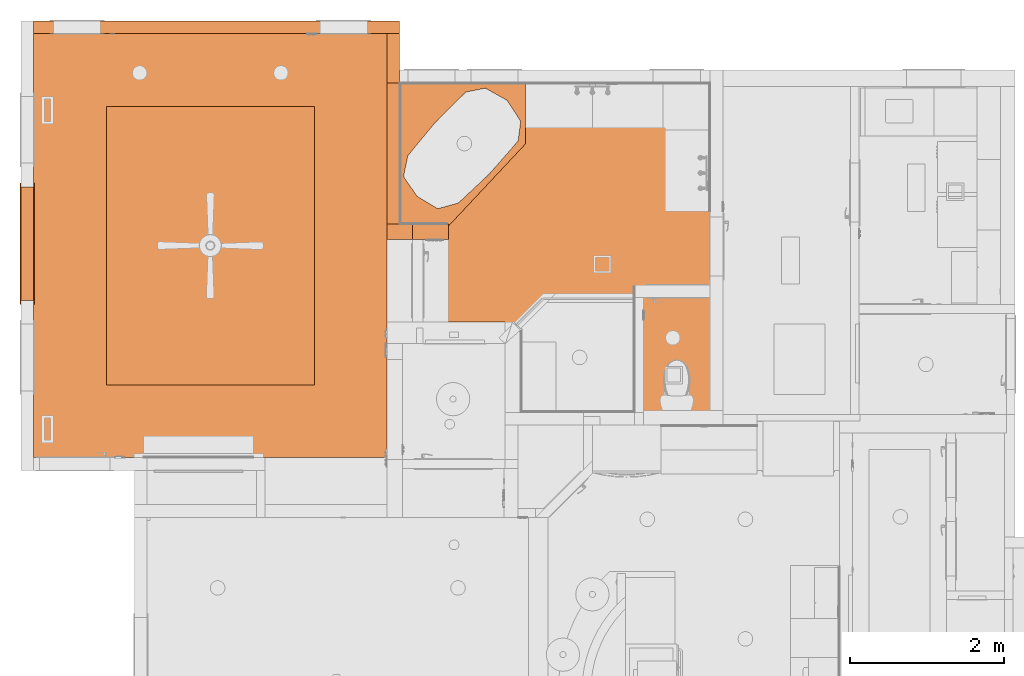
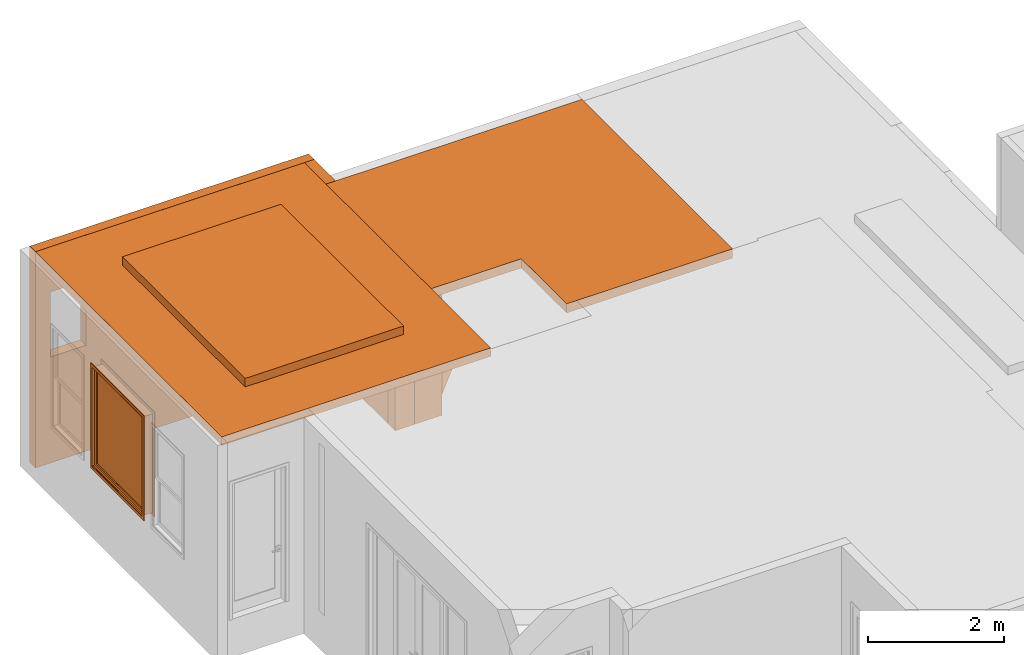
# One storey, part 90 of 103: 9 proxies.
"""IFC2X3 building model written with IfcOpenShell, lengths in inches."""

from ifc_helpers import new_model, entity, si_unit, converted_unit, derived_unit, money_unit, direction, frame, origin_with_axes, place, context, subcontext, project, spatial, faceted_brep, material, type_object, element, save


model = new_model("IFC2X3")

# Units and contexts
model_context = context("Model", 3, precision=0.00039370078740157, world=origin_with_axes(), true_north=direction((0.0, 1.0)))
plan_context = context("Plan", 3, precision=0.00039370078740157, world=origin_with_axes(), true_north=direction((0.0, 1.0)))
body_context = subcontext(model_context, "Body", "Model", "MODEL_VIEW")
ifc_project = project(units=[converted_unit("LENGTHUNIT", "INCH", entity("IfcPositiveLengthMeasure", 0.0254), si_unit("LENGTHUNIT", "METRE"), dimensions=[1, 0, 0, 0, 0, 0, 0]), converted_unit("AREAUNIT", "SQUARE_FOOT", entity("IfcPositiveLengthMeasure", 0.09290304), si_unit("AREAUNIT", "SQUARE_METRE"), dimensions=[2, 0, 0, 0, 0, 0, 0]), si_unit("PLANEANGLEUNIT", "RADIAN"), si_unit("SOLIDANGLEUNIT", "STERADIAN"), money_unit("USD"), converted_unit("TIMEUNIT", "Year", entity("IfcTimeMeasure", 31557600.0), si_unit("TIMEUNIT", "SECOND"), dimensions=[0, 0, 1, 0, 0, 0, 0]), si_unit("MASSUNIT", "GRAM", prefix="KILO"), si_unit("THERMODYNAMICTEMPERATUREUNIT", "DEGREE_CELSIUS"), si_unit("LUMINOUSINTENSITYUNIT", "LUMEN"), si_unit("ENERGYUNIT", "JOULE", prefix="MEGA"), derived_unit("SPECIFICHEATCAPACITYUNIT", [(si_unit("ENERGYUNIT", "JOULE"), 1), (si_unit("MASSUNIT", "GRAM", prefix="KILO"), -1), (si_unit("THERMODYNAMICTEMPERATUREUNIT", "KELVIN"), -1)])], contexts=[model_context, plan_context])

# Site, building, storey
site_placement = place(None, origin_with_axes())
site = spatial("IfcSite", under=ifc_project, at=site_placement, Name="Site", CompositionType="ELEMENT")
building_placement = place(site_placement, origin_with_axes())
building = spatial("IfcBuilding", under=site, at=building_placement, Name="Building", CompositionType="ELEMENT")
storey_placement = place(building_placement, frame((0.0, 0.0, 127.9999999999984), z_axis=(0.0, 0.0, 1.0), x_axis=(1.0, 0.0, 0.0)))
storey = spatial("IfcBuildingStorey", under=building, at=storey_placement, Name="Second Floor", CompositionType="ELEMENT", Elevation=128.0)

# Proxies
ifc_material = material(Name="Generic - Structural")
building_element_proxy_type_1 = type_object("IfcBuildingElementProxyType", Name="Generic - Structural 6 1/2\"", PredefinedType="NOTDEFINED")
proxy_1_placement = place(storey_placement, frame((-75.75000146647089, 448.0000047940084, 119.4999999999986), z_axis=(0.0, 0.0, 1.0), x_axis=(1.0, 0.0, 0.0)))
element("IfcBuildingElementProxy", 1, at=proxy_1_placement, inside=storey, type_object=building_element_proxy_type_1, material=ifc_material, Name="SLA - 004", context=body_context, shape_type="Brep", body=[
    faceted_brep([(0.0, 0.0, 6.499999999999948), (0.0, 0.0, 0.0), (60.25000218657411, 0.0, 0.0), (60.25000218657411, 0.0, 6.499999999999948), (2.600241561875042e-06, 121.9999952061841, 6.499999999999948), (2.600241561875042e-06, 121.9999952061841, 0.0), (171.2500075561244, 121.9999952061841, 0.0), (171.2500006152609, -52.49909553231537, 0.0), (60.25000218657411, -52.49909553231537, 0.0), (60.25000218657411, -52.49909553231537, 6.499999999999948), (171.2500006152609, -52.49909553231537, 6.499999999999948), (171.2500075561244, 121.9999952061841, 6.499999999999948)], [[[0, 1, 2, 3]], [[4, 5, 1, 0]], [[2, 1, 5, 6, 7, 8]], [[3, 2, 8, 9]], [[0, 3, 9, 10, 11, 4]], [[11, 6, 5, 4]], [[10, 7, 6, 11]], [[9, 8, 7, 10]]]),
])
proxy_2_placement = place(storey_placement, frame((-255.7499999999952, 594.9999999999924, -26.99999999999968), z_axis=(0.0, 0.0, 1.0), x_axis=(1.0, 0.0, 0.0)))
element("IfcBuildingElementProxy", 2, at=proxy_2_placement, inside=storey, type_object=building_element_proxy_type_1, material=ifc_material, Name="SW - 122", context=body_context, shape_type="Brep", body=[
    faceted_brep([(0.0, 0.0, 152.9999999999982), (0.0, 0.0, 0.0), (186.4999999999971, 0.0, 0.0), (186.4999999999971, 0.0, 152.9999999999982), (9.999999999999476, 0.0, 120.9999999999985), (33.9999999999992, 0.0, 120.9999999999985), (33.9999999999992, 0.0, 74.99999999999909), (9.999999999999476, 0.0, 74.99999999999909), (145.999999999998, 0.0, 74.99999999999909), (145.999999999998, 0.0, 120.9999999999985), (169.9999999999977, 0.0, 120.9999999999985), (169.9999999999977, 0.0, 74.99999999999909), (0.0, 6.499999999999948, 152.9999999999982), (0.0, 6.499999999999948, 0.0), (186.4999999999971, 6.499999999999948, 0.0), (186.4999999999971, 6.499999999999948, 152.9999999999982), (33.9999999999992, 6.499999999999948, 120.9999999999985), (9.999999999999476, 6.499999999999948, 120.9999999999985), (33.9999999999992, 6.499999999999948, 74.99999999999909), (9.999999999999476, 6.499999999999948, 74.99999999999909), (145.999999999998, 6.499999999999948, 74.99999999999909), (145.999999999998, 6.499999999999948, 120.9999999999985), (169.9999999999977, 6.499999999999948, 120.9999999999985), (169.9999999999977, 6.499999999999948, 74.99999999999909)], [[[0, 1, 2, 3], [4, 5, 6, 7], [8, 9, 10, 11]], [[12, 13, 1, 0]], [[1, 13, 14, 2]], [[2, 14, 15, 3]], [[12, 0, 3, 15]], [[16, 5, 4, 17]], [[18, 6, 5, 16]], [[19, 7, 6, 18]], [[17, 4, 7, 19]], [[20, 21, 9, 8]], [[21, 22, 10, 9]], [[22, 23, 11, 10]], [[23, 20, 8, 11]], [[13, 12, 15, 14], [18, 16, 17, 19], [20, 23, 22, 21]]]),
])
proxy_3_placement = place(storey_placement, frame((-75.74999999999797, 594.9999999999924, -26.9999999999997), z_axis=(0.0, 0.0, 1.0), x_axis=(0.0, -1.0, 0.0)))
element("IfcBuildingElementProxy", 3, at=proxy_3_placement, inside=storey, type_object=building_element_proxy_type_1, material=ifc_material, Name="SW - 123", context=body_context, shape_type="Brep", body=[
    faceted_brep([(0.0, 0.0, 152.9999999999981), (24.99999999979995, 1.133768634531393e-06, 152.9999999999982), (24.99999999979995, 6.499999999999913, 152.9999999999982), (0.0, 6.499999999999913, 152.9999999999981), (96.99999999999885, -1.20644872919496e-06, 146.4999999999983), (24.99999999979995, 1.133768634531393e-06, 146.4999999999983), (0.0, 0.0, 0.0), (24.99999999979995, 0.0, 0.0), (24.99999999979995, 0.0, 26.9999999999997), (96.99999999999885, 0.0, 26.9999999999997), (24.99999999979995, 6.499999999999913, 146.4999999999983), (96.99999999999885, 6.499999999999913, 146.4999999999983), (96.99999999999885, 6.499999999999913, 26.9999999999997), (24.99999999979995, 6.499999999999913, 26.9999999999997), (24.99999999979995, 6.499999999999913, 0.0), (0.0, 6.499999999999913, 0.0)], [[[0, 1, 2, 3]], [[4, 5, 1, 0, 6, 7, 8, 9]], [[5, 10, 2, 1]], [[2, 10, 11, 12, 13, 14, 15, 3]], [[15, 6, 0, 3]], [[4, 11, 10, 5]], [[15, 14, 7, 6]], [[7, 14, 13, 8]], [[8, 13, 12, 9]], [[12, 11, 4, 9]]]),
])
building_element_proxy_type_2 = type_object("IfcBuildingElementProxyType", Name="Generic - Structural 6\"", PredefinedType="NOTDEFINED")
proxy_4_placement = place(storey_placement, frame((-218.7500016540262, 415.9999983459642, 125.9999999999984), z_axis=(0.0, 0.0, 1.0), x_axis=(1.0, 0.0, 0.0)))
element("IfcBuildingElementProxy", 4, at=proxy_4_placement, inside=storey, type_object=building_element_proxy_type_2, material=ifc_material, Name="SLA - 016", context=body_context, shape_type="Brep", body=[
    faceted_brep([(0.0, 0.0, 5.99999999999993), (0.0, 0.0, 0.0), (105.9999999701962, 0.0, 0.0), (105.9999999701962, 0.0, 5.99999999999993), (0.0, 142.0000033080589, 5.99999999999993), (0.0, 142.0000033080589, 0.0), (105.9999999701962, 142.0000033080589, 0.0), (105.9999999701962, 142.0000033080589, 5.99999999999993)], [[[0, 1, 2, 3]], [[4, 5, 1, 0]], [[2, 1, 5, 6]], [[3, 2, 6, 7]], [[4, 0, 3, 7]], [[7, 6, 5, 4]]]),
])
proxy_5_placement = place(storey_placement, frame((-255.7499992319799, 594.9999993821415, 119.9999999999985), z_axis=(0.0, 0.0, 1.0), x_axis=(1.0, 0.0, 0.0)))
element("IfcBuildingElementProxy", 5, at=proxy_5_placement, inside=storey, type_object=building_element_proxy_type_2, material=ifc_material, Name="SLA - 002", context=body_context, shape_type="Brep", body=[
    faceted_brep([(0.0, 0.0, 5.99999999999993), (0.0, 0.0, 0.0), (0.0, -215.9999993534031, 0.0), (0.0, -215.9999993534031, 5.99999999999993), (179.999998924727, 0.0, 5.99999999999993), (179.999998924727, 0.0, 0.0), (179.999998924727, -215.9999993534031, 0.0), (36.99999757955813, -179.0000017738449, 0.0), (142.9999981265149, -179.0000017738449, 0.0), (142.9999981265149, -36.9999975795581, 0.0), (36.99999757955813, -36.9999975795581, 0.0), (179.999998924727, -215.9999993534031, 5.99999999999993), (142.9999981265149, -36.9999975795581, 5.99999999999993), (142.9999981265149, -179.0000017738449, 5.99999999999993), (36.99999757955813, -179.0000017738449, 5.99999999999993), (36.99999757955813, -36.9999975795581, 5.99999999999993)], [[[0, 1, 2, 3]], [[4, 5, 1, 0]], [[2, 1, 5, 6], [7, 8, 9, 10]], [[3, 2, 6, 11]], [[0, 3, 11, 4], [12, 13, 14, 15]], [[11, 6, 5, 4]], [[13, 8, 7, 14]], [[12, 9, 8, 13]], [[15, 10, 9, 12]], [[14, 7, 10, 15]]]),
])
building_element_proxy_type_3 = type_object("IfcBuildingElementProxyType", Name="Generic - Structural 8\"", PredefinedType="NOTDEFINED")
proxy_6_placement = place(storey_placement, frame((-75.74999999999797, 489.9999999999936, 0.0), z_axis=(0.0, 0.0, 1.0), x_axis=(1.0, 0.0, 0.0)))
element("IfcBuildingElementProxy", 6, at=proxy_6_placement, inside=storey, type_object=building_element_proxy_type_3, material=ifc_material, Name="SW - 124", context=body_context, shape_type="Brep", body=[
    faceted_brep([(13.0000000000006, 7.99999999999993, 119.4999999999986), (0.0, 7.99999999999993, 119.4999999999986), (0.0, 0.0, 119.4999999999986), (13.0000000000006, 0.0, 119.4999999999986), (13.0000000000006, 7.99999999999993, 0.0), (0.0, 7.99999999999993, 0.0), (0.0, 0.0, 0.0), (13.0000000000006, 0.0, 0.0)], [[[0, 1, 2, 3]], [[4, 5, 1, 0]], [[6, 2, 1, 5]], [[3, 2, 6, 7]], [[7, 4, 0, 3]], [[7, 6, 5, 4]]]),
])
proxy_7_placement = place(storey_placement, frame((-62.74999999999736, 489.9999999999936, 0.0), z_axis=(0.0, 0.0, 1.0), x_axis=(1.0, 0.0, 0.0)))
element("IfcBuildingElementProxy", 7, at=proxy_7_placement, inside=storey, type_object=building_element_proxy_type_3, material=ifc_material, Name="SW - 124", context=body_context, shape_type="Brep", body=[
    faceted_brep([(18.49999999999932, 7.99999999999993, 119.4999999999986), (0.0, 7.99999999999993, 119.4999999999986), (0.0, 0.0, 119.4999999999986), (18.49999999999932, 0.0, 119.4999999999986), (18.49999999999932, 7.99999999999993, 0.0), (0.0, 7.99999999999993, 0.0), (0.0, 0.0, 0.0), (18.49999999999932, 0.0, 0.0)], [[[0, 1, 2, 3]], [[4, 5, 1, 0]], [[1, 5, 6, 2]], [[3, 2, 6, 7]], [[7, 4, 0, 3]], [[7, 6, 5, 4]]]),
])
building_element_proxy_type_4 = type_object("IfcBuildingElementProxyType", Name="Generic - Structural 24\"", PredefinedType="NOTDEFINED")
proxy_8_placement = place(storey_placement, frame((-44.24996209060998, 497.0843432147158, 0.0), z_axis=(0.0, 0.0, 1.0), x_axis=(1.0, 0.0, 0.0)))
element("IfcBuildingElementProxy", 8, at=proxy_8_placement, inside=storey, type_object=building_element_proxy_type_4, material=ifc_material, Name="S-11", context=body_context, shape_type="Brep", body=[
    faceted_brep([(39.24994226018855, 72.9168808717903, 0.0), (39.24569657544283, 41.86760153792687, 0.0), (0.0, 0.0, 0.0), (-4.908693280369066e-05, 0.9156442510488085, 0.0), (-25.00004908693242, 0.9156418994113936, 0.0), (-25.00003790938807, 72.91565678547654, 0.0), (20.72167168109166, 26.49268432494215, 0.0), (35.38794481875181, 43.22510358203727, 0.0), (36.69191300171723, 53.30994129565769, 0.0), (29.78459586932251, 63.94319967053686, 0.0), (18.72745646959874, 70.14939672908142, 0.0), (8.74788174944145, 68.19686679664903, 0.0), (-6.99897286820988, 52.48433474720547, 0.0), (-7.002453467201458, 52.48062161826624, 0.0), (-7.008574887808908, 52.47320537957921, 0.0), (-7.009023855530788, 52.47361227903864, 0.0), (-20.80266019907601, 35.76306199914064, 0.0), (-23.02576311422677, 25.07668713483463, 0.0), (-16.06162875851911, 15.03410562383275, 0.0), (-5.590263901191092, 8.733063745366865, 0.0), (4.930234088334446, 11.64165728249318, 0.0), (20.7188152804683, 26.4891676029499, 0.0), (39.24994226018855, 72.9168808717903, 23.9999999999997), (39.24569657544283, 41.86760153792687, 23.9999999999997), (0.0, 0.0, 23.9999999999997), (-4.908693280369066e-05, 0.9156442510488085, 23.9999999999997), (-25.00004908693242, 0.9156418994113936, 23.9999999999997), (-25.00003790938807, 72.91565678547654, 23.9999999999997), (20.72167168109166, 26.49268432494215, 23.9999999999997), (35.38794481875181, 43.22510358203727, 23.9999999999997), (36.69191300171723, 53.30994129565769, 23.9999999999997), (29.78459586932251, 63.94319967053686, 23.9999999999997), (18.72745646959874, 70.14939672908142, 23.9999999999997), (8.74788174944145, 68.19686679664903, 23.9999999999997), (-6.99897286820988, 52.48433474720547, 23.9999999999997), (-6.99897286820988, 52.48433474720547, 23.43996062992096), (-7.002453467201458, 52.48062161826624, 23.43996062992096), (-7.008574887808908, 52.47320537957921, 23.43996062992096), (-7.008574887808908, 52.47320537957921, 23.9999999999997), (-7.009023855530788, 52.47361227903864, 23.9999999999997), (-20.80266019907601, 35.76306199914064, 23.9999999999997), (-23.02576311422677, 25.07668713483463, 23.9999999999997), (-16.06162875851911, 15.03410562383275, 23.9999999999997), (-5.590263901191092, 8.733063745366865, 23.9999999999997), (4.930234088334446, 11.64165728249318, 23.9999999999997), (20.7188152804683, 26.4891676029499, 23.9999999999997), (-6.585283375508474, 52.08957626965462, 23.9999999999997), (-6.585283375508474, 52.08957626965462, 23.43996062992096)], [[[0, 1, 2, 3, 4, 5], [6, 7, 8, 9, 10, 11, 12, 13, 14, 15, 16, 17, 18, 19, 20, 21]], [[22, 23, 1, 0]], [[23, 24, 2, 1]], [[24, 25, 3, 2]], [[25, 26, 4, 3]], [[26, 27, 5, 4]], [[27, 22, 0, 5]], [[28, 29, 7, 6]], [[29, 30, 8, 7]], [[30, 31, 9, 8]], [[31, 32, 10, 9]], [[32, 33, 11, 10]], [[33, 34, 35, 12, 11]], [[13, 12, 35, 36]], [[14, 13, 36, 37]], [[38, 39, 15, 14, 37]], [[39, 40, 16, 15]], [[40, 41, 17, 16]], [[41, 42, 18, 17]], [[42, 43, 19, 18]], [[43, 44, 20, 19]], [[44, 45, 21, 20]], [[45, 28, 6, 21]], [[26, 25, 24, 23, 22, 27], [32, 31, 30, 29, 28, 45, 44, 43, 42, 41, 40, 39, 38, 46, 34, 33]], [[34, 46, 47, 35]], [[35, 47, 37, 36]], [[46, 38, 37, 47]]]),
])
building_element_proxy_type_5 = type_object("IfcBuildingElementProxyType", Name="W Fixed", PredefinedType="NOTDEFINED")
proxy_9_placement = place(storey_placement, frame((-255.7499999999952, 458.9999999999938, 23.9999999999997), z_axis=(0.0, 0.0, 1.0), x_axis=(0.0, 1.0, 0.0)))
element("IfcBuildingElementProxy", 9, at=proxy_9_placement, inside=storey, type_object=building_element_proxy_type_5, Name="WD - 002", context=body_context, shape_type="Brep", body=[
    faceted_brep([(0.0, 1.999999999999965, 0.0), (57.99999999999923, 1.999999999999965, 0.0), (57.99999999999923, 0.0, 0.0), (0.0, 0.0, 0.0), (0.0, 1.999999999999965, 69.99999999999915), (57.99999999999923, 1.999999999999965, 69.99999999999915), (0.4999999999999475, 1.999999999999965, 0.5), (57.49999999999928, 1.999999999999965, 0.5), (57.49999999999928, 1.999999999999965, 69.49999999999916), (0.4999999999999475, 1.999999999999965, 69.49999999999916), (57.99999999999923, 0.0, 69.99999999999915), (0.0, 0.0, 69.99999999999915), (0.4999999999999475, 0.0, 0.5), (0.4999999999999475, 0.0, 69.49999999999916), (57.49999999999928, 0.0, 69.49999999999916), (57.49999999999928, 0.0, 0.5)], [[[0, 1, 2, 3]], [[0, 4, 5, 1], [6, 7, 8, 9]], [[1, 5, 10, 2]], [[3, 2, 10, 11], [12, 13, 14, 15]], [[4, 0, 3, 11]], [[5, 4, 11, 10]], [[7, 6, 12, 15]], [[8, 7, 15, 14]], [[9, 8, 14, 13]], [[6, 9, 13, 12]]]),
    faceted_brep([(-2.0, -0.4999999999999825, -1.999999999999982), (-2.0, 0.0, -1.999999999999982), (0.0, 0.0, 0.0), (0.0, -0.4999999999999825, 0.0), (-2.0, -0.5000000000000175, 71.9999999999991), (-2.0, 0.0, 71.9999999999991), (0.0, 0.0, 69.99999999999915), (0.0, -0.5000000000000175, 69.99999999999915)], [[[0, 1, 2, 3]], [[4, 5, 1, 0]], [[1, 5, 6, 2]], [[3, 2, 6, 7]], [[0, 3, 7, 4]], [[7, 6, 5, 4]]]),
    faceted_brep([(59.99999999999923, -0.5000000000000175, 71.9999999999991), (59.99999999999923, 0.0, 71.9999999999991), (57.99999999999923, 0.0, 69.99999999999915), (57.99999999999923, -0.5000000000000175, 69.99999999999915), (59.99999999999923, -0.5000000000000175, -1.999999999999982), (59.99999999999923, 0.0, -1.999999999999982), (57.99999999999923, 0.0, 0.0), (57.99999999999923, -0.5000000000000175, 0.0)], [[[0, 1, 2, 3]], [[4, 5, 1, 0]], [[1, 5, 6, 2]], [[3, 2, 6, 7]], [[0, 3, 7, 4]], [[7, 6, 5, 4]]]),
    faceted_brep([(59.99999999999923, -0.5000000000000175, -1.999999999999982), (59.99999999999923, 0.0, -1.999999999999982), (57.99999999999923, 0.0, 0.0), (57.99999999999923, -0.5000000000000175, 0.0), (-2.0, -0.4999999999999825, -1.999999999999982), (-2.0, 0.0, -1.999999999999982), (0.0, 0.0, 0.0), (0.0, -0.4999999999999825, 0.0)], [[[0, 1, 2, 3]], [[4, 5, 1, 0]], [[1, 5, 6, 2]], [[3, 2, 6, 7]], [[0, 3, 7, 4]], [[7, 6, 5, 4]]]),
    faceted_brep([(-2.0, -0.5000000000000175, 71.9999999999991), (-2.0, 0.0, 71.9999999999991), (0.0, 0.0, 69.99999999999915), (0.0, -0.5000000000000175, 69.99999999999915), (59.99999999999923, -0.5000000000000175, 71.9999999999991), (59.99999999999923, 0.0, 71.9999999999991), (57.99999999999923, 0.0, 69.99999999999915), (57.99999999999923, -0.5000000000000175, 69.99999999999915)], [[[0, 1, 2, 3]], [[4, 5, 1, 0]], [[1, 5, 6, 2]], [[3, 2, 6, 7]], [[0, 3, 7, 4]], [[7, 6, 5, 4]]]),
    faceted_brep([(-2.0, 6.999999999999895, -2.249999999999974), (0.0, 6.999999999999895, -0.2499999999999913), (0.0, 6.499999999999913, -0.2499999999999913), (-2.0, 6.499999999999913, -2.249999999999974), (-2.0, 6.999999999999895, 71.9999999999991), (0.0, 6.999999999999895, 69.99999999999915), (0.0, 6.499999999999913, 69.99999999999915), (-2.0, 6.499999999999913, 71.9999999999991)], [[[0, 1, 2, 3]], [[0, 4, 5, 1]], [[1, 5, 6, 2]], [[3, 2, 6, 7]], [[4, 0, 3, 7]], [[5, 4, 7, 6]]]),
    faceted_brep([(59.99999999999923, 6.999999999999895, 71.9999999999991), (57.99999999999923, 6.999999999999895, 69.99999999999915), (57.99999999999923, 6.499999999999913, 69.99999999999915), (59.99999999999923, 6.499999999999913, 71.9999999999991), (59.99999999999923, 6.999999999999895, -2.249999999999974), (57.99999999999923, 6.999999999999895, -0.2499999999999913), (57.99999999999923, 6.499999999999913, -0.2499999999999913), (59.99999999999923, 6.499999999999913, -2.249999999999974)], [[[0, 1, 2, 3]], [[0, 4, 5, 1]], [[1, 5, 6, 2]], [[3, 2, 6, 7]], [[4, 0, 3, 7]], [[5, 4, 7, 6]]]),
    faceted_brep([(59.99999999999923, 6.999999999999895, -2.249999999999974), (57.99999999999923, 6.999999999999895, -0.2499999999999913), (57.99999999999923, 6.499999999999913, -0.2499999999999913), (59.99999999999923, 6.499999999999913, -2.249999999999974), (-2.0, 6.999999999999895, -2.249999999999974), (0.0, 6.999999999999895, -0.2499999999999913), (0.0, 6.499999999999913, -0.2499999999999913), (-2.0, 6.499999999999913, -2.249999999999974)], [[[0, 1, 2, 3]], [[0, 4, 5, 1]], [[1, 5, 6, 2]], [[3, 2, 6, 7]], [[4, 0, 3, 7]], [[5, 4, 7, 6]]]),
    faceted_brep([(-2.0, 6.999999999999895, 71.9999999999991), (0.0, 6.999999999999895, 69.99999999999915), (0.0, 6.499999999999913, 69.99999999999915), (-2.0, 6.499999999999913, 71.9999999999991), (59.99999999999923, 6.999999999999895, 71.9999999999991), (57.99999999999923, 6.999999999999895, 69.99999999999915), (57.99999999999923, 6.499999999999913, 69.99999999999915), (59.99999999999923, 6.499999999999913, 71.9999999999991)], [[[0, 1, 2, 3]], [[0, 4, 5, 1]], [[1, 5, 6, 2]], [[3, 2, 6, 7]], [[4, 0, 3, 7]], [[5, 4, 7, 6]]]),
    faceted_brep([(0.4996062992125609, 1.999999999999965, 0.7539370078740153), (0.4996062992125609, 1.999999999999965, 69.49606299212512), (0.0, 1.999999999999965, 69.49606299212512), (0.0, 1.999999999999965, 0.7539370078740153), (0.4996062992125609, 3.749999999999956, 69.49606299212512), (0.4996062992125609, 3.749999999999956, 0.7539370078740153), (0.2499999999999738, 3.749999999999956, 69.49606299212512), (0.2499999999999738, 6.499999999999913, 69.49606299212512), (0.0, 6.499999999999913, 69.49606299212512), (0.0, 6.499999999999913, 0.7539370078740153), (0.2499999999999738, 6.499999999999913, 0.7539370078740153), (0.2499999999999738, 3.749999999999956, 0.7539370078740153)], [[[0, 1, 2, 3]], [[4, 1, 0, 5]], [[1, 4, 6, 7, 8, 2]], [[9, 3, 2, 8]], [[5, 0, 3, 9, 10, 11]], [[4, 5, 11, 6]], [[11, 10, 7, 6]], [[9, 8, 7, 10]]]),
    faceted_brep([(57.50039370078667, 3.749999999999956, 69.49606299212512), (57.50039370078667, 1.999999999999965, 69.49606299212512), (57.99999999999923, 1.999999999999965, 69.49606299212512), (57.99999999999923, 6.499999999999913, 69.49606299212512), (57.74999999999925, 6.499999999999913, 69.49606299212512), (57.74999999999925, 3.749999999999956, 69.49606299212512), (57.50039370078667, 1.999999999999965, 0.7539370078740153), (57.50039370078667, 3.749999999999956, 0.7539370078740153), (57.99999999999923, 1.999999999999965, 0.7539370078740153), (57.99999999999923, 6.499999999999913, 0.7539370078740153), (57.74999999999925, 6.499999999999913, 0.7539370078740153), (57.74999999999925, 3.749999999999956, 0.7539370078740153)], [[[0, 1, 2, 3, 4, 5]], [[6, 1, 0, 7]], [[1, 6, 8, 2]], [[3, 2, 8, 9]], [[3, 9, 10, 4]], [[11, 5, 4, 10]], [[7, 0, 5, 11]], [[6, 7, 11, 10, 9, 8]]]),
    faceted_brep([(57.50039370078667, 3.749999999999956, 0.7539370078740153), (57.50039370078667, 1.999999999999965, 0.7539370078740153), (57.99999999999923, 1.999999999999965, 0.7539370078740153), (57.99999999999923, 6.499999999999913, 0.7539370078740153), (57.74999999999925, 6.499999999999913, 0.7539370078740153), (57.74999999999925, 3.749999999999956, 0.7539370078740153), (57.50039370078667, 1.999999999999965, 0.7496062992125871), (57.50039370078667, 3.749999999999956, 0.7496062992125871), (0.4996062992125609, 1.999999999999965, 0.7496062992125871), (0.4996062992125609, 1.999999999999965, 0.7539370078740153), (0.0, 1.999999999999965, 0.7539370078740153), (0.0, 1.999999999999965, 0.0), (57.99999999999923, 1.999999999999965, 0.0), (57.99999999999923, 6.499999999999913, 0.0), (0.0, 6.499999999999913, 0.0), (0.0, 6.499999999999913, 0.7539370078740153), (0.2499999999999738, 6.499999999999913, 0.7539370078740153), (0.2499999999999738, 6.499999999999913, 0.5), (57.74999999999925, 6.499999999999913, 0.5), (57.74999999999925, 3.749999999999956, 0.5), (0.2499999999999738, 3.749999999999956, 0.5), (0.2499999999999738, 3.749999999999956, 0.7539370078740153), (0.4996062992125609, 3.749999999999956, 0.7539370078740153), (0.4996062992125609, 3.749999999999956, 0.7496062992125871)], [[[0, 1, 2, 3, 4, 5]], [[6, 1, 0, 7]], [[8, 9, 10, 11, 12, 2, 1, 6]], [[3, 2, 12, 13]], [[14, 15, 16, 17, 18, 4, 3, 13]], [[19, 5, 4, 18]], [[7, 0, 5, 19, 20, 21, 22, 23]], [[8, 6, 7, 23]], [[22, 9, 8, 23]], [[9, 22, 21, 16, 15, 10]], [[14, 11, 10, 15]], [[13, 12, 11, 14]], [[20, 17, 16, 21]], [[20, 19, 18, 17]]]),
    faceted_brep([(0.4996062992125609, 1.999999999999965, 69.49606299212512), (0.4996062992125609, 1.999999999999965, 69.50039370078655), (57.50039370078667, 1.999999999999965, 69.50039370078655), (57.50039370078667, 1.999999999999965, 69.49606299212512), (57.99999999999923, 1.999999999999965, 69.49606299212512), (57.99999999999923, 1.999999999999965, 69.99999999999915), (0.0, 1.999999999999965, 69.99999999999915), (0.0, 1.999999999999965, 69.49606299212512), (0.4996062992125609, 3.749999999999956, 69.49606299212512), (0.4996062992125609, 3.749999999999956, 69.50039370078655), (57.50039370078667, 3.749999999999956, 69.50039370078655), (57.50039370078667, 3.749999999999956, 69.49606299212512), (57.74999999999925, 3.749999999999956, 69.49606299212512), (57.74999999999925, 6.499999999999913, 69.49606299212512), (57.99999999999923, 6.499999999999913, 69.49606299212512), (57.99999999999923, 6.499999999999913, 69.99999999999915), (0.0, 6.499999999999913, 69.99999999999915), (0.0, 6.499999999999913, 69.49606299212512), (0.2499999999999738, 6.499999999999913, 69.49606299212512), (0.2499999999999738, 3.749999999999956, 69.49606299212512), (0.2499999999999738, 3.749999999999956, 69.74999999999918), (57.74999999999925, 3.749999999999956, 69.74999999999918), (57.74999999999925, 6.499999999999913, 69.74999999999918), (0.2499999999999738, 6.499999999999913, 69.74999999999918)], [[[0, 1, 2, 3, 4, 5, 6, 7]], [[1, 0, 8, 9]], [[2, 1, 9, 10]], [[3, 2, 10, 11]], [[3, 11, 12, 13, 14, 4]], [[15, 5, 4, 14]], [[16, 6, 5, 15]], [[17, 7, 6, 16]], [[8, 0, 7, 17, 18, 19]], [[9, 8, 19, 20, 21, 12, 11, 10]], [[12, 21, 22, 13]], [[13, 22, 23, 18, 17, 16, 15, 14]], [[20, 19, 18, 23]], [[21, 20, 23, 22]]]),
    faceted_brep([(2.249999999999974, 3.749999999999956, 2.499999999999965), (2.249999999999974, 4.624999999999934, 2.499999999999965), (2.249999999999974, 4.624999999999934, 67.74999999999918), (2.249999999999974, 3.749999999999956, 67.74999999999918), (0.2499999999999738, 3.749999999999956, 2.499999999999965), (0.2499999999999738, 4.624999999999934, 2.499999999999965), (0.2499999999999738, 4.624999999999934, 67.74999999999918), (0.2499999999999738, 3.749999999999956, 67.74999999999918)], [[[0, 1, 2, 3]], [[4, 5, 1, 0]], [[1, 5, 6, 2]], [[3, 2, 6, 7]], [[0, 3, 7, 4]], [[7, 6, 5, 4]]]),
    faceted_brep([(57.74999999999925, 3.749999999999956, 2.499999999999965), (57.74999999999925, 4.624999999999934, 2.499999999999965), (57.74999999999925, 4.624999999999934, 67.74999999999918), (57.74999999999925, 3.749999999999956, 67.74999999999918), (55.74999999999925, 3.749999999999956, 2.499999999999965), (55.74999999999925, 4.624999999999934, 2.499999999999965), (55.74999999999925, 4.624999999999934, 67.74999999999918), (55.74999999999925, 3.749999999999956, 67.74999999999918)], [[[0, 1, 2, 3]], [[4, 5, 1, 0]], [[1, 5, 6, 2]], [[3, 2, 6, 7]], [[0, 3, 7, 4]], [[7, 6, 5, 4]]]),
    faceted_brep([(57.74999999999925, 3.749999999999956, 0.5), (57.74999999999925, 4.624999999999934, 0.5), (57.74999999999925, 4.624999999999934, 2.499999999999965), (57.74999999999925, 3.749999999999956, 2.499999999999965), (0.2499999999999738, 3.749999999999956, 0.5), (0.2499999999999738, 4.624999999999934, 0.5), (0.2499999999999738, 4.624999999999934, 2.499999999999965), (2.249999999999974, 4.624999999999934, 2.499999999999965), (27.99999999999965, 4.624999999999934, 2.499999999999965), (29.99999999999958, 4.624999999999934, 2.499999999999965), (55.74999999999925, 4.624999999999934, 2.499999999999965), (55.74999999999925, 3.749999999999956, 2.499999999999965), (29.99999999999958, 3.749999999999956, 2.499999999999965), (27.99999999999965, 3.749999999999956, 2.499999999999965), (2.249999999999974, 3.749999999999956, 2.499999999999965), (0.2499999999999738, 3.749999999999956, 2.499999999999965)], [[[0, 1, 2, 3]], [[4, 5, 1, 0]], [[1, 5, 6, 7, 8, 9, 10, 2]], [[3, 2, 10, 11]], [[0, 3, 11, 12, 13, 14, 15, 4]], [[15, 6, 5, 4]], [[14, 7, 6, 15]], [[13, 8, 7, 14]], [[12, 9, 8, 13]], [[11, 10, 9, 12]]]),
    faceted_brep([(0.2499999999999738, 3.749999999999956, 69.74999999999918), (0.2499999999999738, 4.624999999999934, 69.74999999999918), (0.2499999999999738, 4.624999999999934, 67.74999999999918), (0.2499999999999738, 3.749999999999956, 67.74999999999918), (57.74999999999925, 3.749999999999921, 69.74999999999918), (57.74999999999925, 4.624999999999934, 69.74999999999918), (57.74999999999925, 4.624999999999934, 67.74999999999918), (55.74999999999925, 4.624999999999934, 67.74999999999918), (29.99999999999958, 4.624999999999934, 67.74999999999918), (27.99999999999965, 4.624999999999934, 67.74999999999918), (2.249999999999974, 4.624999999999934, 67.74999999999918), (2.249999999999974, 3.749999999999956, 67.74999999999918), (27.99999999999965, 3.749999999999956, 67.74999999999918), (29.99999999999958, 3.749999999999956, 67.74999999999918), (55.74999999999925, 3.749999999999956, 67.74999999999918), (57.74999999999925, 3.749999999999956, 67.74999999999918)], [[[0, 1, 2, 3]], [[4, 5, 1, 0]], [[1, 5, 6, 7, 8, 9, 10, 2]], [[3, 2, 10, 11]], [[0, 3, 11, 12, 13, 14, 15, 4]], [[15, 6, 5, 4]], [[14, 7, 6, 15]], [[13, 8, 7, 14]], [[12, 9, 8, 13]], [[11, 10, 9, 12]]]),
    faceted_brep([(2.249999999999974, 4.624999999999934, 2.499999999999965), (2.249999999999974, 5.499999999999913, 2.499999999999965), (2.249999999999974, 5.499999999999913, 67.74999999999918), (2.249999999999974, 4.624999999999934, 67.74999999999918), (0.2499999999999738, 4.624999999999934, 2.499999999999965), (0.2499999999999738, 5.499999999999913, 2.499999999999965), (0.2499999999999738, 5.499999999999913, 67.74999999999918), (0.2499999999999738, 4.624999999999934, 67.74999999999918)], [[[0, 1, 2, 3]], [[4, 5, 1, 0]], [[1, 5, 6, 2]], [[3, 2, 6, 7]], [[0, 3, 7, 4]], [[7, 6, 5, 4]]]),
    faceted_brep([(57.74999999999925, 4.624999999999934, 2.499999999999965), (57.74999999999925, 5.499999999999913, 2.499999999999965), (57.74999999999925, 5.499999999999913, 67.74999999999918), (57.74999999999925, 4.624999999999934, 67.74999999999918), (55.74999999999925, 4.624999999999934, 2.499999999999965), (55.74999999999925, 5.499999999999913, 2.499999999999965), (55.74999999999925, 5.499999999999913, 67.74999999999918), (55.74999999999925, 4.624999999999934, 67.74999999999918)], [[[0, 1, 2, 3]], [[4, 5, 1, 0]], [[1, 5, 6, 2]], [[3, 2, 6, 7]], [[0, 3, 7, 4]], [[7, 6, 5, 4]]]),
    faceted_brep([(57.74999999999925, 4.624999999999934, 0.5), (57.74999999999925, 5.499999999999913, 0.5), (57.74999999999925, 5.499999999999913, 2.499999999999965), (57.74999999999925, 4.624999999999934, 2.499999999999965), (0.2499999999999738, 4.624999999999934, 0.5), (0.2499999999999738, 5.499999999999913, 0.5), (0.2499999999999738, 5.499999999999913, 2.499999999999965), (2.249999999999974, 5.499999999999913, 2.499999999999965), (27.99999999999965, 5.499999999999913, 2.499999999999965), (29.99999999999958, 5.499999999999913, 2.499999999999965), (55.74999999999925, 5.499999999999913, 2.499999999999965), (55.74999999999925, 4.624999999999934, 2.499999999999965), (29.99999999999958, 4.624999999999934, 2.499999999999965), (27.99999999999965, 4.624999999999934, 2.499999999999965), (2.249999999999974, 4.624999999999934, 2.499999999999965), (0.2499999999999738, 4.624999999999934, 2.499999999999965)], [[[0, 1, 2, 3]], [[4, 5, 1, 0]], [[1, 5, 6, 7, 8, 9, 10, 2]], [[3, 2, 10, 11]], [[0, 3, 11, 12, 13, 14, 15, 4]], [[15, 6, 5, 4]], [[14, 7, 6, 15]], [[13, 8, 7, 14]], [[12, 9, 8, 13]], [[11, 10, 9, 12]]]),
    faceted_brep([(0.2499999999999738, 4.624999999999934, 69.74999999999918), (0.2499999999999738, 5.499999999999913, 69.74999999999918), (0.2499999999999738, 5.499999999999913, 67.74999999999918), (0.2499999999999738, 4.624999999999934, 67.74999999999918), (57.74999999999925, 4.624999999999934, 69.74999999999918), (57.74999999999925, 5.499999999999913, 69.74999999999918), (57.74999999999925, 5.499999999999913, 67.74999999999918), (55.74999999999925, 5.499999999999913, 67.74999999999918), (29.99999999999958, 5.499999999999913, 67.74999999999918), (27.99999999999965, 5.499999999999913, 67.74999999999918), (2.249999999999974, 5.499999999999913, 67.74999999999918), (2.249999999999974, 4.624999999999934, 67.74999999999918), (27.99999999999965, 4.624999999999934, 67.74999999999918), (29.99999999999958, 4.624999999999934, 67.74999999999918), (55.74999999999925, 4.624999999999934, 67.74999999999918), (57.74999999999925, 4.624999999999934, 67.74999999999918)], [[[0, 1, 2, 3]], [[4, 5, 1, 0]], [[1, 5, 6, 7, 8, 9, 10, 2]], [[3, 2, 10, 11]], [[0, 3, 11, 12, 13, 14, 15, 4]], [[15, 6, 5, 4]], [[14, 7, 6, 15]], [[13, 8, 7, 14]], [[12, 9, 8, 13]], [[11, 10, 9, 12]]]),
    faceted_brep([(2.249999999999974, 4.499999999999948, 2.499999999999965), (2.249999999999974, 4.749999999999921, 2.499999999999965), (55.74999999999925, 4.749999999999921, 2.499999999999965), (55.74999999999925, 4.499999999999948, 2.499999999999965), (2.249999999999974, 4.499999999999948, 67.74999999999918), (2.249999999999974, 4.749999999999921, 67.74999999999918), (55.74999999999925, 4.749999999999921, 67.74999999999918), (55.74999999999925, 4.499999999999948, 67.74999999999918)], [[[0, 1, 2, 3]], [[4, 5, 1, 0]], [[1, 5, 6, 2]], [[3, 2, 6, 7]], [[0, 3, 7, 4]], [[7, 6, 5, 4]]]),
])

save(model, "model.ifc")
